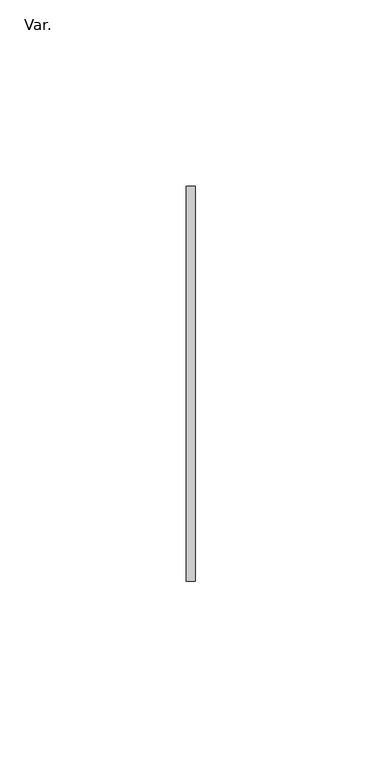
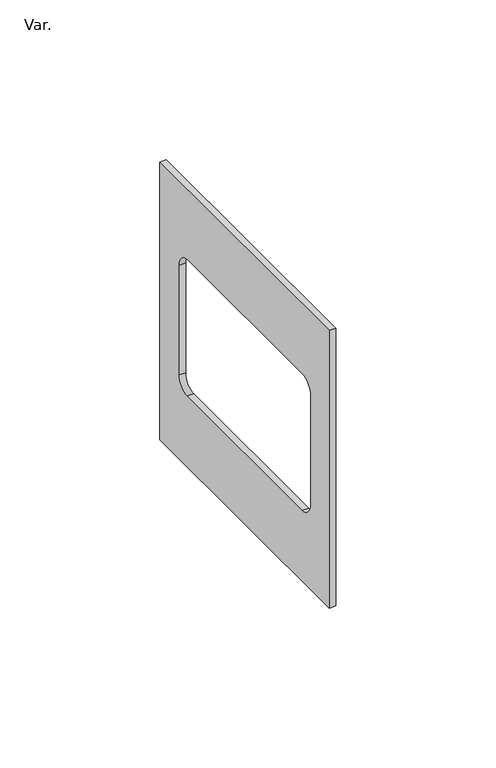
"""IFC4 building model written with IfcOpenShell, lengths in millimetres: cable carrier fitting geometry, AmancoWavin_ConduitFittings_ZnoUsarTapaCuadrada : Var.."""

from ifc_helpers import new_model, si_unit, point, frame, frame_2d, origin, place, context, project, spatial, polyline, circle_curve, trimmed, segment, composite_curve, outline, extrude, source, transform, mapped, element, save


def var_5554e04d(model_context):
    return source(origin(), model_context, "Body", "SweptSolid", [
        extrude(outline(polyline([(-52.95, 0.0), (-52.95, 105.9), (52.95, 105.9), (52.95, 0.0), (-52.95, 0.0)]), holes=[composite_curve([segment(trimmed(circle_curve(frame_2d((-35.95, 73.9)), 5.0), [point((-35.95, 78.9))], [point((-40.95, 73.9))], True, "CARTESIAN"), True, "CONTINUOUS"), segment(polyline([(-40.95, 73.9), (-40.95, 32.0)]), True, "CONTINUOUS"), segment(trimmed(circle_curve(frame_2d((-35.95, 32.0)), 5.0), [point((-40.95, 32.0))], [point((-35.95, 27.0))], True, "CARTESIAN"), True, "CONTINUOUS"), segment(polyline([(-35.95, 27.0), (35.95, 27.0)]), True, "CONTINUOUS"), segment(trimmed(circle_curve(frame_2d((35.95, 32.0)), 5.0), [point((35.95, 27.0))], [point((40.95, 32.0))], True, "CARTESIAN"), True, "CONTINUOUS"), segment(polyline([(40.95, 32.0), (40.95, 73.9)]), True, "CONTINUOUS"), segment(trimmed(circle_curve(frame_2d((35.95, 73.9)), 5.0), [point((40.95, 73.9))], [point((35.95, 78.9))], True, "CARTESIAN"), True, "CONTINUOUS"), segment(polyline([(35.95, 78.9), (-35.95, 78.9)]), True, "CONTINUOUS")], self_intersect=False)]), frame((0.0, 0.0, 0.0), z_axis=(1.0, 0.0, 0.0), x_axis=(0.0, 1.0, 0.0)), (0.0, 0.0, 1.0), 2.3),
    ])


if __name__ == "__main__":
    model = new_model("IFC4")
    model_context = context("Model", 3, world=origin())
    ifc_project = project(units=[si_unit("LENGTHUNIT", "METRE", prefix="MILLI")], contexts=[model_context])
    site = spatial("IfcSite", under=ifc_project)
    building = spatial("IfcBuilding", under=site)
    placement = place(None, origin())
    var_shape = var_5554e04d(model_context)
    element("IfcCableCarrierFitting", 1, ObjectType="AmancoWavin_ConduitFittings_ZnoUsarTapaCuadrada : Var.", at=placement, inside=building, context=model_context, shape_type="MappedRepresentation", body=[
        mapped(var_shape, transform((0.0, 0.0, 0.0), x_axis=(1.0, 0.0, 0.0), y_axis=(0.0, 1.0, 0.0), z_axis=(0.0, 0.0, 1.0))),
    ])
    save(model, "model.ifc")
